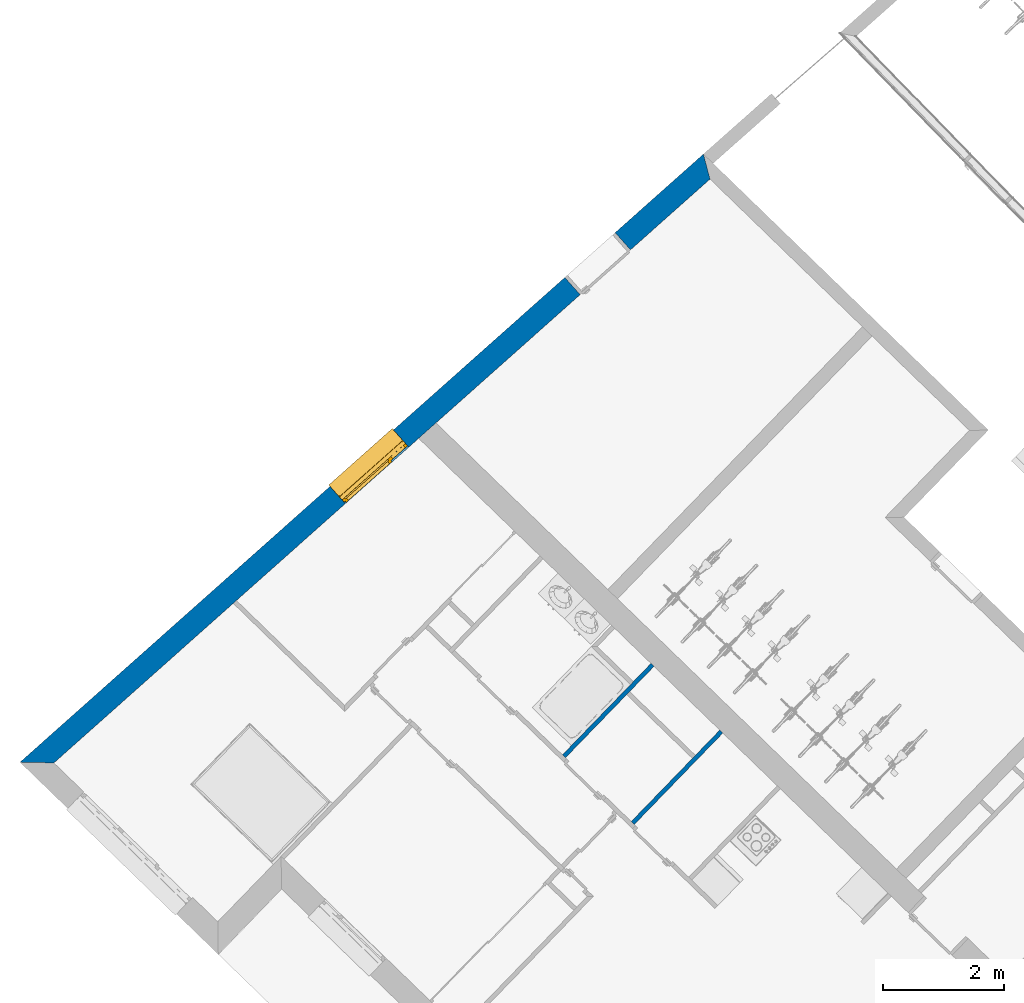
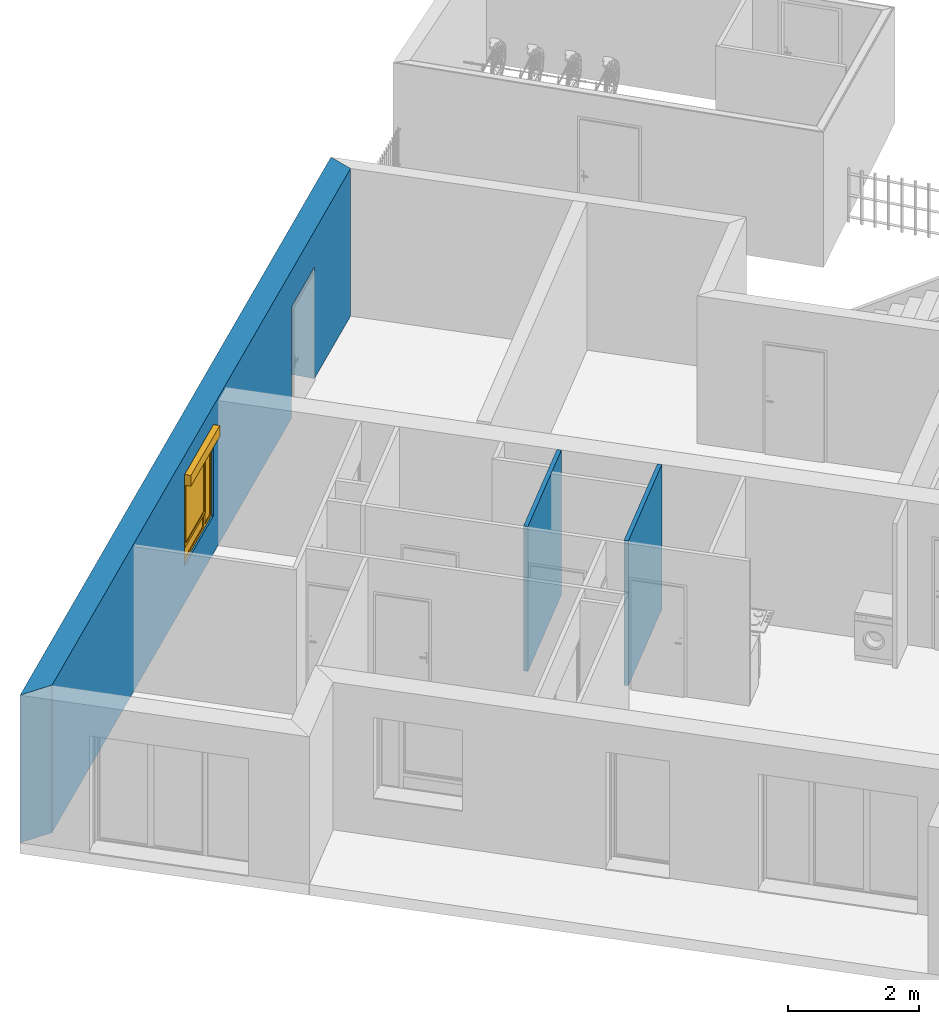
# One storey, part 20 of 195: 3 walls, 1 window, 2 openings.
"""IFC2X3 building model written with IfcOpenShell, lengths in metres."""

from ifc_helpers import new_model, entity, si_unit, converted_unit, derived_unit, money_unit, direction, frame, origin_with_axes, origin_2d_with_axis, place, context, subcontext, project, spatial, polyline, rectangle, outline, extrude, open_shell, faceted_brep, surface_model, source, transform, mapped, material, layer, layer_set, layer_usage, type_object, element, fill, save


model = new_model("IFC2X3")

# Units and contexts
model_context = context("Model", 3, precision=1e-05, world=origin_with_axes(), true_north=direction((0.0, 1.0)))
body_context = subcontext(model_context, "Body", "Model", "MODEL_VIEW")
ifc_project = project(units=[si_unit("LENGTHUNIT", "METRE"), si_unit("AREAUNIT", "SQUARE_METRE"), si_unit("VOLUMEUNIT", "CUBIC_METRE"), converted_unit("PLANEANGLEUNIT", "DEGREE", entity("IfcPlaneAngleMeasure", 0.0174532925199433), si_unit("PLANEANGLEUNIT", "RADIAN"), dimensions=[0, 0, 0, 0, 0, 0, 0]), money_unit("CHF"), converted_unit("TIMEUNIT", "Year", entity("IfcTimeMeasure", 31557600.0), si_unit("TIMEUNIT", "SECOND"), dimensions=[0, 0, 1, 0, 0, 0, 0]), si_unit("MASSUNIT", "GRAM", prefix="KILO"), si_unit("THERMODYNAMICTEMPERATUREUNIT", "DEGREE_CELSIUS"), si_unit("LUMINOUSINTENSITYUNIT", "LUMEN"), si_unit("ENERGYUNIT", "JOULE", prefix="MEGA"), derived_unit("THERMALCONDUCTANCEUNIT", [(si_unit("POWERUNIT", "WATT"), 1), (si_unit("LENGTHUNIT", "METRE"), -1), (si_unit("THERMODYNAMICTEMPERATUREUNIT", "KELVIN"), -1)]), derived_unit("SPECIFICHEATCAPACITYUNIT", [(si_unit("ENERGYUNIT", "JOULE"), 1), (si_unit("MASSUNIT", "GRAM", prefix="KILO"), -1), (si_unit("THERMODYNAMICTEMPERATUREUNIT", "KELVIN"), -1)]), derived_unit("MASSDENSITYUNIT", [(si_unit("MASSUNIT", "GRAM", prefix="KILO"), 1), (si_unit("VOLUMEUNIT", "CUBIC_METRE"), -1)])], contexts=[model_context])

# Site, building, storey
site_placement = place(None, origin_with_axes())
site = spatial("IfcSite", under=ifc_project, at=site_placement, Name="Site", CompositionType="ELEMENT")
building_placement = place(site_placement, origin_with_axes())
building = spatial("IfcBuilding", under=site, at=building_placement, Name="Bâtiment", CompositionType="ELEMENT")
storey_placement = place(building_placement, origin_with_axes())
storey = spatial("IfcBuildingStorey", under=building, at=storey_placement, Name="rdc", CompositionType="ELEMENT", Elevation=0.0)

# Walls
ifc_material_1 = material(Name="Hachure solide 268963992")
ifc_layer_1 = layer(ifc_material_1, 0.07, ventilated="UNKNOWN")
ifc_layer_set_1 = layer_set([ifc_layer_1], Name="Cloison 70 0826278243")
ifc_layer_usage_1 = layer_usage(ifc_layer_set_1, "AXIS2", "NEGATIVE", 0.0)
wall_type_1 = type_object("IfcWallType", Name="Cloison 70 0826278243 70", PredefinedType="NOTDEFINED")
wall_1_placement = place(storey_placement, frame((9521.978012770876, -1060.566692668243, 57.7), z_axis=(0.0, 0.0, 1.0), x_axis=(-0.6958610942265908, -0.718176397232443, 0.0)))
element("IfcWallStandardCase", 1, at=wall_1_placement, inside=storey, type_object=wall_type_1, material=ifc_layer_usage_1, Name="Mur-149", context=body_context, shape_type="SweptSolid", body=[
    extrude(outline(polyline([(0.3799999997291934, -0.07000000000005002), (2.478769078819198, -0.07000000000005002), (2.478769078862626, 0.0), (0.3799999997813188, 0.0), (0.3799999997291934, -0.07000000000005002)])), origin_with_axes(), (0.0, 0.0, 1.0), 2.7),
])
ifc_layer_usage_2 = layer_usage(ifc_layer_set_1, "AXIS2", "NEGATIVE", 0.0)
wall_2_placement = place(storey_placement, frame((9523.112731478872, -1061.666153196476, 57.7), z_axis=(0.0, 0.0, 1.0), x_axis=(-0.6958610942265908, -0.718176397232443, 0.0)))
element("IfcWallStandardCase", 2, at=wall_2_placement, inside=storey, type_object=wall_type_1, material=ifc_layer_usage_2, Name="Mur-149", context=body_context, shape_type="SweptSolid", body=[
    extrude(outline(polyline([(0.3800000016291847, -0.06999999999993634), (2.478769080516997, -0.06999999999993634), (2.478769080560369, 0.0), (0.3800000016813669, 0.0), (0.3800000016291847, -0.06999999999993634)])), origin_with_axes(), (0.0, 0.0, 1.0), 2.7),
])

# Wall, openings, window
ifc_material_2 = material(Name="Parpaing 312445824")
ifc_layer_2 = layer(ifc_material_2, 0.22, ventilated="UNKNOWN")
ifc_material_3 = material(Name="Isolant styromousse 301821074")
ifc_layer_3 = layer(ifc_material_3, 0.16, ventilated="UNKNOWN")
ifc_layer_set_2 = layer_set([ifc_layer_2, ifc_layer_3], Name="isol int 22+16 0836643197")
ifc_layer_usage_3 = layer_usage(ifc_layer_set_2, "AXIS2", "POSITIVE", 0.0)
wall_type_2 = type_object("IfcWallType", Name="isol int 22+16 0836643197 380", PredefinedType="NOTDEFINED")
wall_3_placement = place(storey_placement, frame((9522.528090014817, -1052.392600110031, 57.7), z_axis=(0.0, 0.0, 1.0), x_axis=(-0.7470609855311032, -0.6647555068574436, 0.0)))
wall_3 = element("IfcWallStandardCase", 3, at=wall_3_placement, inside=storey, type_object=wall_type_2, material=ifc_layer_usage_3, Name="Mur-116", context=body_context, shape_type="SweptSolid", body=[
    extrude(outline(polyline([(0.0, 0.0), (15.08442723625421, 0.0), (14.67520820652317, 0.3799999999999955), (0.1924280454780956, 0.3799999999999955), (0.0, 0.0)])), origin_with_axes(), (0.0, 0.0, 1.0), 2.75),
])
opening_1_placement = place(wall_3_placement, frame((7.542145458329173, 0.0, 0.7000000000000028), z_axis=(0.0, 0.0, 1.0), x_axis=(1.0, 0.0, 0.0)))
opening_1 = element("IfcOpeningElement", 4, at=opening_1_placement, cuts=wall_3, Name="Fen-045", context=body_context, shape_type="Brep", body=[
    faceted_brep([(-0.7000000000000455, 0.2999999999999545, 1.5), (-0.7000000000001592, 0.4800000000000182, 1.5), (-0.7000000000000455, 7.872121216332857, 1.5), (-0.7000000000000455, 7.872121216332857, 0.0), (-0.7000000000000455, 0.2999999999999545, 0.0), (-0.7000000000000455, 0.2200000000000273, 1.5), (-0.7000000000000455, 0.2200000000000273, 1.700000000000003), (-0.7000000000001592, 0.4800000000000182, 1.700000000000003), (0.6999999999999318, 0.4800000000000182, 1.5), (0.6999999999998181, 7.872121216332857, 1.5), (0.6999999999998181, 7.872121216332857, 0.0), (0.6999999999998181, 0.3000000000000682, 0.0), (-0.7000000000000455, -7.492121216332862, 0.0), (-0.7000000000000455, -7.492121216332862, 1.5), (0.6999999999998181, 0.2200000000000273, 1.5), (0.6999999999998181, 0.2200000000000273, 1.700000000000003), (0.6999999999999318, 0.4800000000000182, 1.700000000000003), (0.6999999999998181, 0.3000000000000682, 1.5), (0.6999999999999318, -7.492121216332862, 0.0), (0.6999999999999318, -7.492121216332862, 1.5)], [[[0, 1, 2, 3, 4]], [[1, 0, 5, 6, 7]], [[1, 8, 9, 2]], [[9, 10, 3, 2]], [[11, 4, 3, 10]], [[5, 0, 4, 12, 13]], [[5, 14, 15, 6]], [[7, 6, 15, 16]], [[8, 1, 7, 16]], [[8, 17, 11, 10, 9]], [[4, 11, 18, 12]], [[13, 12, 18, 19]], [[14, 5, 13, 19]], [[17, 8, 16, 15, 14]], [[17, 14, 19, 18, 11]]]),
])
opening_2_placement = place(wall_3_placement, frame((2.504253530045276, 0.0, 0.0), z_axis=(0.0, 0.0, 1.0), x_axis=(1.0, 0.0, 0.0)))
element("IfcOpeningElement", 5, at=opening_2_placement, cuts=wall_3, Name="Por-300", context=body_context, shape_type="SweptSolid", body=[
    extrude(rectangle(XDim=1.109999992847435, YDim=2.079999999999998, at=origin_2d_with_axis()), frame((3.576360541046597e-09, -0.3799999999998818, 1.039999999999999), z_axis=(0.0, -1.0, 0.0), x_axis=(-1.0, 0.0, 0.0)), (0.0, 0.0, -1.0), 0.76),
])
window_style = type_object("IfcWindowStyle", Name="Fenêtre variable 27", ConstructionType="NOTDEFINED", OperationType="TRIPLE_PANEL_LEFT", ParameterTakesPrecedence=False, Sizeable=False)
shared_shape = source(origin_with_axes(), body_context, "Body", "SurfaceModel", [
    surface_model("IfcShellBasedSurfaceModel", [(0.7, -0.05100000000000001, 0.05), (-0.7, -0.05100000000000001, 0.05000000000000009), (-0.7, -0.05100000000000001, 0.04000000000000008), (0.7, -0.05100000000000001, 0.04), (-0.7, -0.3799999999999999, 0.02900000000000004), (0.7, -0.3799999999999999, 0.02899999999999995), (-0.7, -0.3799999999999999, 0.00900000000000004), (0.7, -0.3799999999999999, 0.008999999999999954), (-0.7, -0.3699999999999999, 0.01900000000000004), (0.7, -0.3699999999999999, 0.01899999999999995)], [open_shell([[[0, 1, 2, 3]], [[3, 2, 4, 5]], [[5, 4, 6, 7]], [[7, 6, 8, 9]]])]),
    faceted_brep([(0.7, -0.13, 1.7), (0.7, 0.13, 1.7), (0.697, 0.13, 1.7), (0.697, -0.13, 1.7), (0.7, -0.13, 1.5), (0.7, 0.13, 1.5), (0.697, 0.13, 1.5), (0.697, -0.13, 1.5)], [[[0, 1, 2, 3]], [[0, 4, 5, 1]], [[1, 5, 6, 2]], [[3, 2, 6, 7]], [[4, 0, 3, 7]], [[5, 4, 7, 6]]]),
    faceted_brep([(-0.6970000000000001, -0.1299999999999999, 1.7), (-0.6970000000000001, 0.1300000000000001, 1.7), (-0.7000000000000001, 0.1300000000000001, 1.7), (-0.7000000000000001, -0.1299999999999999, 1.7), (-0.6970000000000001, -0.1299999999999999, 1.5), (-0.6970000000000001, 0.1300000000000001, 1.5), (-0.7000000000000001, 0.1300000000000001, 1.5), (-0.7000000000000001, -0.1299999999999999, 1.5)], [[[0, 1, 2, 3]], [[0, 4, 5, 1]], [[1, 5, 6, 2]], [[3, 2, 6, 7]], [[4, 0, 3, 7]], [[5, 4, 7, 6]]]),
    faceted_brep([(0.697, -0.13, 1.5), (0.697, -0.13, 1.7), (-0.697, -0.1299999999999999, 1.7), (-0.697, -0.1299999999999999, 1.5), (0.697, -0.127, 1.5), (0.697, -0.127, 1.697), (0.697, 0.127, 1.697), (0.697, 0.127, 1.503), (0.697, -0.108, 1.503), (0.697, -0.108, 1.5), (0.697, 0.13, 1.5), (0.697, 0.13, 1.7), (-0.697, 0.1300000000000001, 1.7), (-0.697, 0.1300000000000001, 1.5), (-0.697, -0.1079999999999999, 1.5), (-0.697, -0.1079999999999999, 1.503), (-0.697, 0.1270000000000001, 1.503), (-0.697, 0.1270000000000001, 1.697), (-0.697, -0.1269999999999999, 1.697), (-0.697, -0.1269999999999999, 1.5)], [[[0, 1, 2, 3]], [[0, 4, 5, 6, 7, 8, 9, 10, 11, 1]], [[1, 11, 12, 2]], [[3, 2, 12, 13, 14, 15, 16, 17, 18, 19]], [[4, 0, 3, 19]], [[5, 4, 19, 18]], [[6, 5, 18, 17]], [[7, 6, 17, 16]], [[8, 7, 16, 15]], [[9, 8, 15, 14]], [[10, 9, 14, 13]], [[11, 10, 13, 12]]]),
    faceted_brep([(0.694, -0.08075423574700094, 1.585760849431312), (0.694, -0.07705479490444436, 1.571954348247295), (0.694, -0.07101408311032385, 1.559), (0.694, -0.06281564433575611, 1.547291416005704), (0.694, -0.05270858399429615, 1.537184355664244), (0.694, -0.04099999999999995, 1.528985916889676), (0.694, -0.02804565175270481, 1.522945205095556), (0.694, -0.01423915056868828, 1.519245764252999), (0.694, 0.0, 1.518), (0.694, 0.01423915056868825, 1.519245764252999), (0.694, 0.02804565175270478, 1.522945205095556), (0.694, 0.04099999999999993, 1.528985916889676), (0.694, 0.05270858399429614, 1.537184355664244), (0.694, 0.06281564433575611, 1.547291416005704), (0.694, 0.07101408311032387, 1.559), (0.694, 0.07705479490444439, 1.571954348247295), (0.694, 0.08075423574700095, 1.585760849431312), (0.694, 0.0819999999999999, 1.6), (0.694, 0.08075423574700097, 1.614239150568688), (0.694, 0.0770547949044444, 1.628045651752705), (0.694, 0.07101408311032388, 1.641), (0.694, 0.06281564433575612, 1.652708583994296), (0.694, 0.05270858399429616, 1.662815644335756), (0.694, 0.04099999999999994, 1.671014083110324), (0.694, 0.02804565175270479, 1.677054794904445), (0.694, 0.01423915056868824, 1.680754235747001), (0.694, 0.0, 1.682), (0.694, -0.01423915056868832, 1.680754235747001), (0.694, -0.02804565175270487, 1.677054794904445), (0.694, -0.04100000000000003, 1.671014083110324), (0.694, -0.05270858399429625, 1.662815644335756), (0.694, -0.06281564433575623, 1.652708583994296), (0.694, -0.07101408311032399, 1.641), (0.694, -0.07705479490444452, 1.628045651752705), (0.694, -0.0807542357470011, 1.614239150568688), (0.694, -0.08200000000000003, 1.6), (-0.694, -0.08075423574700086, 1.585760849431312), (-0.694, -0.07705479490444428, 1.571954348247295), (-0.694, -0.07101408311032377, 1.559), (-0.694, -0.06281564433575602, 1.547291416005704), (-0.694, -0.05270858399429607, 1.537184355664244), (-0.694, -0.04099999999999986, 1.528985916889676), (-0.694, -0.02804565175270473, 1.522945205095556), (-0.694, -0.0142391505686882, 1.519245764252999), (-0.694, 0.0, 1.518), (-0.694, 0.01423915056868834, 1.519245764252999), (-0.694, 0.02804565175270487, 1.522945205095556), (-0.694, 0.04100000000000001, 1.528985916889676), (-0.694, 0.05270858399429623, 1.537184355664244), (-0.694, 0.06281564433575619, 1.547291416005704), (-0.694, 0.07101408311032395, 1.559), (-0.694, 0.07705479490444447, 1.571954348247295), (-0.694, 0.08075423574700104, 1.585760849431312), (-0.694, 0.08199999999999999, 1.6), (-0.694, 0.08075423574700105, 1.614239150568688), (-0.694, 0.07705479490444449, 1.628045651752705), (-0.694, 0.07101408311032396, 1.641), (-0.694, 0.0628156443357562, 1.652708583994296), (-0.694, 0.05270858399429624, 1.662815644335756), (-0.694, 0.04100000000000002, 1.671014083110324), (-0.694, 0.02804565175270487, 1.677054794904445), (-0.694, 0.01423915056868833, 1.680754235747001), (-0.694, 0.0, 1.682), (-0.694, -0.01423915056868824, 1.680754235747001), (-0.694, -0.02804565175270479, 1.677054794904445), (-0.694, -0.04099999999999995, 1.671014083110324), (-0.694, -0.05270858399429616, 1.662815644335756), (-0.694, -0.06281564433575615, 1.652708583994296), (-0.694, -0.07101408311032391, 1.641), (-0.694, -0.07705479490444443, 1.628045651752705), (-0.694, -0.08075423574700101, 1.614239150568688), (-0.694, -0.08199999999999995, 1.6)], [[[0, 1, 2, 3, 4, 5, 6, 7, 8, 9, 10, 11, 12, 13, 14, 15, 16, 17, 18, 19, 20, 21, 22, 23, 24, 25, 26, 27, 28, 29, 30, 31, 32, 33, 34, 35]], [[1, 0, 36, 37]], [[2, 1, 37, 38]], [[3, 2, 38, 39]], [[4, 3, 39, 40]], [[5, 4, 40, 41]], [[6, 5, 41, 42]], [[7, 6, 42, 43]], [[8, 7, 43, 44]], [[9, 8, 44, 45]], [[10, 9, 45, 46]], [[11, 10, 46, 47]], [[12, 11, 47, 48]], [[13, 12, 48, 49]], [[14, 13, 49, 50]], [[15, 14, 50, 51]], [[16, 15, 51, 52]], [[17, 16, 52, 53]], [[18, 17, 53, 54]], [[19, 18, 54, 55]], [[20, 19, 55, 56]], [[21, 20, 56, 57]], [[22, 21, 57, 58]], [[23, 22, 58, 59]], [[24, 23, 59, 60]], [[25, 24, 60, 61]], [[26, 25, 61, 62]], [[27, 26, 62, 63]], [[28, 27, 63, 64]], [[29, 28, 64, 65]], [[30, 29, 65, 66]], [[31, 30, 66, 67]], [[32, 31, 67, 68]], [[33, 32, 68, 69]], [[34, 33, 69, 70]], [[35, 34, 70, 71]], [[0, 35, 71, 36]], [[36, 71, 70, 69, 68, 67, 66, 65, 64, 63, 62, 61, 60, 59, 58, 57, 56, 55, 54, 53, 52, 51, 50, 49, 48, 47, 46, 45, 44, 43, 42, 41, 40, 39, 38, 37]]]),
    faceted_brep([(-0.7, -0.105, 0.03), (-0.7, -0.13, 0.03), (-0.7, -0.1299999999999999, 1.5), (-0.7, -0.1049999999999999, 1.5), (-0.6749999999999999, -0.105, 0.03), (-0.6749999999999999, -0.108, 0.03), (-0.697, -0.108, 0.03), (-0.697, -0.127, 0.03), (-0.6749999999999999, -0.127, 0.03), (-0.6749999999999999, -0.13, 0.03), (-0.6749999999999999, -0.1299999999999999, 1.5), (-0.6749999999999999, -0.1269999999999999, 1.5), (-0.697, -0.1269999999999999, 1.5), (-0.697, -0.1079999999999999, 1.5), (-0.6749999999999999, -0.1079999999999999, 1.5), (-0.6749999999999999, -0.1049999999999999, 1.5)], [[[0, 1, 2, 3]], [[0, 4, 5, 6, 7, 8, 9, 1]], [[1, 9, 10, 2]], [[3, 2, 10, 11, 12, 13, 14, 15]], [[4, 0, 3, 15]], [[5, 4, 15, 14]], [[6, 5, 14, 13]], [[7, 6, 13, 12]], [[8, 7, 12, 11]], [[9, 8, 11, 10]]]),
    faceted_brep([(0.7, -0.105, 0.03), (0.7, -0.1049999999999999, 1.5), (0.7, -0.1299999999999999, 1.5), (0.7, -0.13, 0.03), (0.6749999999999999, -0.105, 0.03), (0.6749999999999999, -0.1049999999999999, 1.5), (0.6749999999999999, -0.1079999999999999, 1.5), (0.697, -0.1079999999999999, 1.5), (0.697, -0.1269999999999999, 1.5), (0.6749999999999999, -0.1269999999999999, 1.5), (0.6749999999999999, -0.1299999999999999, 1.5), (0.6749999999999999, -0.13, 0.03), (0.6749999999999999, -0.127, 0.03), (0.697, -0.127, 0.03), (0.697, -0.108, 0.03), (0.6749999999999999, -0.108, 0.03)], [[[0, 1, 2, 3]], [[4, 5, 1, 0]], [[1, 5, 6, 7, 8, 9, 10, 2]], [[3, 2, 10, 11]], [[0, 3, 11, 12, 13, 14, 15, 4]], [[15, 6, 5, 4]], [[14, 7, 6, 15]], [[13, 8, 7, 14]], [[12, 9, 8, 13]], [[11, 10, 9, 12]]]),
    surface_model("IfcShellBasedSurfaceModel", [(0.697, -0.115, 1.6), (-0.697, -0.1149999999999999, 1.6), (-0.697, -0.12, 1.6), (0.697, -0.12, 1.6), (0.697, -0.115, 1.6), (0.697, -0.12, 1.6), (-0.697, -0.1199999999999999, 1.6), (-0.697, -0.1149999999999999, 1.6)], [open_shell([[[0, 1, 2, 3]], [[4, 5, 6, 7]]])]),
    faceted_brep([(0.697, -0.115, 1.6), (0.697, -0.1166666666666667, 1.583333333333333), (-0.697, -0.1166666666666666, 1.583333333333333), (-0.697, -0.1149999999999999, 1.6), (0.697, -0.12, 1.6), (0.697, -0.1216666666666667, 1.583333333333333), (0.697, -0.1216666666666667, 1.566666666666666), (0.697, -0.12, 1.55), (0.697, -0.115, 1.55), (0.697, -0.1166666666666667, 1.566666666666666), (-0.697, -0.1166666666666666, 1.566666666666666), (-0.697, -0.1149999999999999, 1.55), (-0.697, -0.1199999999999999, 1.55), (-0.697, -0.1216666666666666, 1.566666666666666), (-0.697, -0.1216666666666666, 1.583333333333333), (-0.697, -0.1199999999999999, 1.6)], [[[0, 1, 2, 3]], [[0, 4, 5, 6, 7, 8, 9, 1]], [[1, 9, 10, 2]], [[3, 2, 10, 11, 12, 13, 14, 15]], [[4, 0, 3, 15]], [[5, 4, 15, 14]], [[6, 5, 14, 13]], [[7, 6, 13, 12]], [[8, 7, 12, 11]], [[9, 8, 11, 10]]]),
    faceted_brep([(0.697, -0.115, 1.55), (0.697, -0.1166666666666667, 1.533333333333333), (-0.697, -0.1166666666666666, 1.533333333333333), (-0.697, -0.1149999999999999, 1.55), (0.697, -0.12, 1.55), (0.697, -0.1216666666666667, 1.533333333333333), (0.697, -0.1216666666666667, 1.516666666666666), (0.697, -0.12, 1.5), (0.697, -0.115, 1.5), (0.697, -0.1166666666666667, 1.516666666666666), (-0.697, -0.1166666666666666, 1.516666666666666), (-0.697, -0.1149999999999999, 1.5), (-0.697, -0.1199999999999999, 1.5), (-0.697, -0.1216666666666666, 1.516666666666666), (-0.697, -0.1216666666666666, 1.533333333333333), (-0.697, -0.1199999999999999, 1.55)], [[[0, 1, 2, 3]], [[0, 4, 5, 6, 7, 8, 9, 1]], [[1, 9, 10, 2]], [[3, 2, 10, 11, 12, 13, 14, 15]], [[4, 0, 3, 15]], [[5, 4, 15, 14]], [[6, 5, 14, 13]], [[7, 6, 13, 12]], [[8, 7, 12, 11]], [[9, 8, 11, 10]]]),
    faceted_brep([(0.6749999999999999, 0.0, 1.45), (0.6749999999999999, -0.02500000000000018, 1.45), (0.6499999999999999, -0.02500000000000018, 1.45), (0.6499999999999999, -0.05000000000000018, 1.45), (0.7, -0.05000000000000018, 1.45), (0.7, 0.0, 1.45), (0.6749999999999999, 0.0, 0.3099999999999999), (0.6749999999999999, -0.02500000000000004, 0.3099999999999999), (0.6499999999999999, -0.02500000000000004, 0.335), (0.6499999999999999, -0.02500000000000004, 0.3099999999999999), (0.6499999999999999, -0.05000000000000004, 0.335), (0.6499999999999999, -0.05000000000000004, 0.265), (0.6499999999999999, -0.05000000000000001, 0.05000000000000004), (0.7, -0.05000000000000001, 0.05000000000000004), (0.7, 0.0, 0.05000000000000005), (0.6499999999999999, 0.0, 0.05000000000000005), (0.6499999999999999, 0.0, 0.265), (0.6499999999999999, 0.0, 0.3099999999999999)], [[[0, 1, 2, 3, 4, 5]], [[1, 0, 6, 7]], [[8, 2, 1, 7, 9]], [[2, 8, 10, 3]], [[10, 11, 12, 13, 4, 3]], [[5, 4, 13, 14]], [[6, 0, 5, 14, 15, 16, 17]], [[6, 17, 9, 7]], [[9, 17, 16, 11, 10, 8]], [[15, 12, 11, 16]], [[14, 13, 12, 15]]]),
    faceted_brep([(-0.3068894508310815, -0.02500000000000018, 1.45), (-0.3318894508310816, -0.02500000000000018, 1.45), (-0.3318894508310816, 0.0, 1.45), (-0.3768894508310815, 0.0, 1.45), (-0.3768894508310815, -0.05000000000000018, 1.45), (-0.3068894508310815, -0.05000000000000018, 1.45), (-0.3068894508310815, -0.02500000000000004, 0.335), (-0.3068894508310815, -0.02500000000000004, 0.3099999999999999), (-0.3318894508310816, -0.02500000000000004, 0.3099999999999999), (-0.3318894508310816, 0.0, 0.3099999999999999), (-0.3068894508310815, 0.0, 0.3099999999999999), (-0.3068894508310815, 0.0, 0.265), (-0.3068894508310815, 0.0, 0.05000000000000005), (-0.3768894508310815, 0.0, 0.05000000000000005), (-0.3768894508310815, -0.05000000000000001, 0.05000000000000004), (-0.3068894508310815, -0.05000000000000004, 0.265), (-0.3068894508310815, -0.05000000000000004, 0.335), (-0.3068894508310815, -0.05000000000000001, 0.05000000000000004)], [[[0, 1, 2, 3, 4, 5]], [[1, 0, 6, 7, 8]], [[9, 2, 1, 8]], [[9, 10, 11, 12, 13, 3, 2]], [[13, 14, 4, 3]], [[15, 16, 5, 4, 14, 17]], [[6, 0, 5, 16]], [[7, 6, 16, 15, 11, 10]], [[10, 9, 8, 7]], [[11, 15, 17, 12]], [[12, 17, 14, 13]]]),
    faceted_brep([(0.6499999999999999, -0.02500000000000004, 0.335), (-0.3068894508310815, -0.02500000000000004, 0.335), (-0.3068894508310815, -0.05000000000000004, 0.335), (0.6499999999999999, -0.05000000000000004, 0.335), (-0.3068894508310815, -0.02500000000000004, 0.3099999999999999), (0.6499999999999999, -0.02500000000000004, 0.3099999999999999), (-0.3068894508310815, 0.0, 0.3099999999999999), (-0.3068894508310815, 0.0, 0.265), (-0.3068894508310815, -0.05000000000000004, 0.265), (0.6499999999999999, -0.05000000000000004, 0.265), (0.6499999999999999, 0.0, 0.265), (0.6499999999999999, 0.0, 0.3099999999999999)], [[[0, 1, 2, 3]], [[4, 1, 0, 5]], [[4, 6, 7, 8, 2, 1]], [[2, 8, 9, 3]], [[5, 0, 3, 9, 10, 11]], [[11, 6, 4, 5]], [[6, 11, 10, 7]], [[10, 9, 8, 7]]]),
    faceted_brep([(0.6749999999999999, 0.0, 1.45), (0.6749999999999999, 0.0, 1.475), (-0.3318894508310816, 0.0, 1.475), (-0.3318894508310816, 0.0, 1.45), (-0.3768894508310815, 0.0, 1.45), (-0.6499999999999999, 0.0, 1.45), (-0.7, 0.0, 1.45), (-0.7, 0.0, 1.5), (0.7, 0.0, 1.5), (0.7, 0.0, 1.45), (0.6749999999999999, -0.02500000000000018, 1.45), (0.6749999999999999, -0.02500000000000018, 1.475), (-0.3318894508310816, -0.02500000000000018, 1.475), (-0.3318894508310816, -0.02500000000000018, 1.45), (-0.3068894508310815, -0.02500000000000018, 1.45), (-0.3068894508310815, -0.05000000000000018, 1.45), (-0.3768894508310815, -0.05000000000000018, 1.45), (-0.6499999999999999, -0.05000000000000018, 1.45), (-0.7, -0.05000000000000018, 1.45), (-0.7, -0.05000000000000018, 1.5), (0.7, -0.05000000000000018, 1.5), (0.7, -0.05000000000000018, 1.45), (0.6499999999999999, -0.05000000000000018, 1.45), (0.6499999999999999, -0.02500000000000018, 1.45)], [[[0, 1, 2, 3, 4, 5, 6, 7, 8, 9]], [[1, 0, 10, 11]], [[2, 1, 11, 12]], [[3, 2, 12, 13]], [[13, 14, 15, 16, 4, 3]], [[4, 16, 17, 5]], [[5, 17, 18, 6]], [[6, 18, 19, 7]], [[7, 19, 20, 8]], [[8, 20, 21, 9]], [[10, 0, 9, 21, 22, 23]], [[14, 13, 12, 11, 10, 23]], [[14, 23, 22, 15]], [[16, 15, 22, 21, 20, 19, 18, 17]]]),
    faceted_brep([(-0.6499999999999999, -0.05000000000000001, 0.05), (-0.7, -0.05000000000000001, 0.05), (-0.7, 0.0, 0.05000000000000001), (-0.6499999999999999, 0.0, 0.05000000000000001), (-0.6499999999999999, -0.05000000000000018, 1.45), (-0.7, -0.05000000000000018, 1.45), (-0.7, 0.0, 1.45), (-0.6499999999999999, 0.0, 1.45)], [[[0, 1, 2, 3]], [[0, 4, 5, 1]], [[1, 5, 6, 2]], [[3, 2, 6, 7]], [[4, 0, 3, 7]], [[5, 4, 7, 6]]]),
    faceted_brep([(0.6499999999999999, -0.05000000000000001, 0.05), (0.7, -0.05000000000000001, 0.05), (0.7, 0.0, 0.05000000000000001), (0.6499999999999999, 0.0, 0.05000000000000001), (-0.3068894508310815, -0.05000000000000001, 0.05), (-0.3768894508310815, -0.05000000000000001, 0.05), (-0.6499999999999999, -0.05000000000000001, 0.05), (-0.7, -0.05000000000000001, 0.05), (-0.7, -0.05, 0.0), (0.7, -0.05, 0.0), (0.7, 0.0, 0.0), (-0.7, 0.0, 0.0), (-0.7, 0.0, 0.05000000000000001), (-0.6499999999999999, 0.0, 0.05000000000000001), (-0.3768894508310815, 0.0, 0.05000000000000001), (-0.3068894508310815, 0.0, 0.05000000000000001)], [[[0, 1, 2, 3]], [[0, 4, 5, 6, 7, 8, 9, 1]], [[1, 9, 10, 2]], [[3, 2, 10, 11, 12, 13, 14, 15]], [[4, 0, 3, 15]], [[5, 4, 15, 14]], [[6, 5, 14, 13]], [[7, 6, 13, 12]], [[8, 7, 12, 11]], [[9, 8, 11, 10]]]),
    faceted_brep([(0.625, -0.02500000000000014, 1.425), (0.6749999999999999, -0.02500000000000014, 1.425), (0.6749999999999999, 0.02499999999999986, 1.425), (0.625, 0.02499999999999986, 1.425), (0.625, -0.02500000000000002, 0.3599999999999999), (0.6749999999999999, -0.02500000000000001, 0.3599999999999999), (0.6749999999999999, 0.02499999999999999, 0.3599999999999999), (0.625, 0.02499999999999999, 0.3599999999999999)], [[[0, 1, 2, 3]], [[0, 4, 5, 1]], [[1, 5, 6, 2]], [[3, 2, 6, 7]], [[4, 0, 3, 7]], [[5, 4, 7, 6]]]),
    faceted_brep([(-0.2818894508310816, -0.02500000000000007, 0.3599999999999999), (-0.3318894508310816, -0.02500000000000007, 0.3599999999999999), (-0.3318894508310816, 0.02499999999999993, 0.3599999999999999), (-0.2818894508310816, 0.02499999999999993, 0.3599999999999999), (-0.2818894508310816, -0.0250000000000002, 1.425), (-0.3318894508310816, -0.0250000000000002, 1.425), (-0.3318894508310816, 0.0249999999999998, 1.425), (-0.2818894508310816, 0.0249999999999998, 1.425)], [[[0, 1, 2, 3]], [[0, 4, 5, 1]], [[1, 5, 6, 2]], [[3, 2, 6, 7]], [[4, 0, 3, 7]], [[5, 4, 7, 6]]]),
    faceted_brep([(-0.3318894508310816, -0.02500000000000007, 0.3099999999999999), (-0.3318894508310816, -0.02500000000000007, 0.3599999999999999), (-0.3318894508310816, 0.02499999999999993, 0.3599999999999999), (-0.3318894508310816, 0.02499999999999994, 0.3099999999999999), (0.6749999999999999, -0.025, 0.3099999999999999), (0.6749999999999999, -0.02500000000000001, 0.3599999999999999), (0.625, -0.02500000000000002, 0.3599999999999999), (-0.2818894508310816, -0.02500000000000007, 0.3599999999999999), (-0.2818894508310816, 0.02499999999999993, 0.3599999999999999), (0.625, 0.02499999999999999, 0.3599999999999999), (0.6749999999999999, 0.02499999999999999, 0.3599999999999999), (0.6749999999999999, 0.02499999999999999, 0.3099999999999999)], [[[0, 1, 2, 3]], [[0, 4, 5, 6, 7, 1]], [[1, 7, 8, 2]], [[3, 2, 8, 9, 10, 11]], [[4, 0, 3, 11]], [[5, 4, 11, 10]], [[6, 5, 10, 9]], [[7, 6, 9, 8]]]),
    faceted_brep([(0.6749999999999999, -0.02500000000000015, 1.475), (0.6749999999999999, -0.02500000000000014, 1.425), (0.6749999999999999, 0.02499999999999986, 1.425), (0.6749999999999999, 0.02499999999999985, 1.475), (-0.3318894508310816, -0.02500000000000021, 1.475), (-0.3318894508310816, -0.0250000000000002, 1.425), (-0.2818894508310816, -0.0250000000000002, 1.425), (0.625, -0.02500000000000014, 1.425), (0.625, 0.02499999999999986, 1.425), (-0.2818894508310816, 0.0249999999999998, 1.425), (-0.3318894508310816, 0.0249999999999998, 1.425), (-0.3318894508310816, 0.02499999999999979, 1.475)], [[[0, 1, 2, 3]], [[0, 4, 5, 6, 7, 1]], [[1, 7, 8, 2]], [[3, 2, 8, 9, 10, 11]], [[4, 0, 3, 11]], [[5, 4, 11, 10]], [[6, 5, 10, 9]], [[7, 6, 9, 8]]]),
    surface_model("IfcShellBasedSurfaceModel", [(0.625, -0.01000000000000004, 0.3599999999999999), (0.625, -0.01000000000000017, 1.425), (-0.2818894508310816, -0.01000000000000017, 1.425), (-0.2818894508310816, -0.01000000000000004, 0.3599999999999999)], [open_shell([[[0, 1, 2, 3]]])]),
    surface_model("IfcShellBasedSurfaceModel", [(0.625, 0.009999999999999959, 0.3599999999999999), (-0.2818894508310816, 0.009999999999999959, 0.3599999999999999), (-0.2818894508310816, 0.00999999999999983, 1.425), (0.625, 0.00999999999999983, 1.425)], [open_shell([[[0, 1, 2, 3]]])]),
    surface_model("IfcShellBasedSurfaceModel", [(-0.3768894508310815, -0.035, 0.05), (-0.3768894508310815, -0.03500000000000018, 1.45), (-0.65, -0.03500000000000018, 1.45), (-0.65, -0.035, 0.05)], [open_shell([[[0, 1, 2, 3]]])]),
    surface_model("IfcShellBasedSurfaceModel", [(-0.3768894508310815, -0.015, 0.05), (-0.65, -0.015, 0.05), (-0.65, -0.01500000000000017, 1.45), (-0.3768894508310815, -0.01500000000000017, 1.45)], [open_shell([[[0, 1, 2, 3]]])]),
    surface_model("IfcShellBasedSurfaceModel", [(0.6499999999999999, -0.035, 0.05), (0.6499999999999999, -0.03500000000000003, 0.265), (-0.3068894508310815, -0.03500000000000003, 0.265), (-0.3068894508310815, -0.035, 0.05)], [open_shell([[[0, 1, 2, 3]]])]),
    surface_model("IfcShellBasedSurfaceModel", [(0.6499999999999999, -0.015, 0.05), (-0.3068894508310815, -0.015, 0.05), (-0.3068894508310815, -0.01500000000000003, 0.265), (0.6499999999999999, -0.01500000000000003, 0.265)], [open_shell([[[0, 1, 2, 3]]])]),
])
window_placement = place(opening_1_placement, frame((-0.7000000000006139, 0.0, 0.0), z_axis=(0.0, 0.0, 1.0), x_axis=(1.0, 0.0, 0.0)))
window = element("IfcWindow", 6, at=window_placement, inside=storey, type_object=window_style, Name="Fen-045", OverallHeight=1.5, OverallWidth=1.4, context=body_context, shape_type="MappedRepresentation", body=[
    mapped(shared_shape, transform((0.7000000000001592, 0.3500000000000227, 0.0))),
])
fill(opening_1, window)

save(model, "model.ifc")
